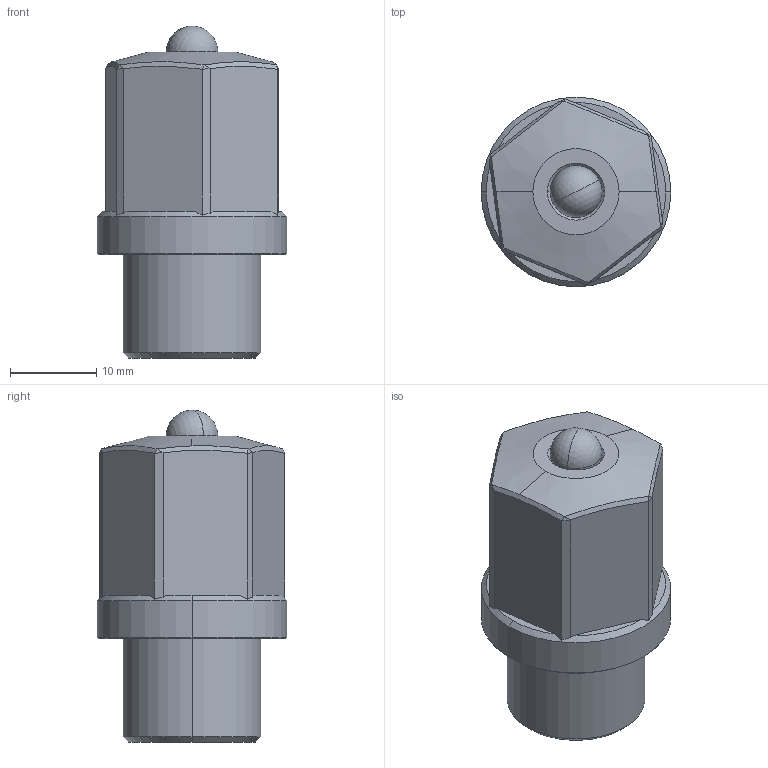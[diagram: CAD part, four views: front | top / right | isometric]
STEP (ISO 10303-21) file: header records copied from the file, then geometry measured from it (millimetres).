
FILE_DESCRIPTION (( 'STEP AP214' ), '1' );
FILE_NAME ('TO4C-M162.STEP', '2020-07-10T06:09:21', ( '' ), ( '' ), 'SwSTEP 2.0', 'SolidWorks 2019', '' );
FILE_SCHEMA (( 'AUTOMOTIVE_DESIGN' ));
Length unit declared in the file: millimetre
Products named in the file (3): TO4C-M162; TO4C-M162-PISTON; TO4C-M162-BODY
Assembly tree (2 placements, depth 2):
  TO4C-M162
    TO4C-M162-BODY
    TO4C-M162-PISTON
Bounding box: 22 x 22 x 38.52 mm (x, y, z)
Volume: 9734.1 mm3; surface area: 3768 mm2
Topology: 2 solids, 2 shells, 67 faces, 148 edges, 87 vertices
Faces by surface type: plane 31, cone 16, cylinder 12, bspline 6, sphere 2
Entity records: 2624 total; most frequent: CARTESIAN_POINT 1117, ORIENTED_EDGE 288, DIRECTION 280, EDGE_CURVE 144, AXIS2_PLACEMENT_3D 114, VERTEX_POINT 85, EDGE_LOOP 71, FACE_OUTER_BOUND 67
